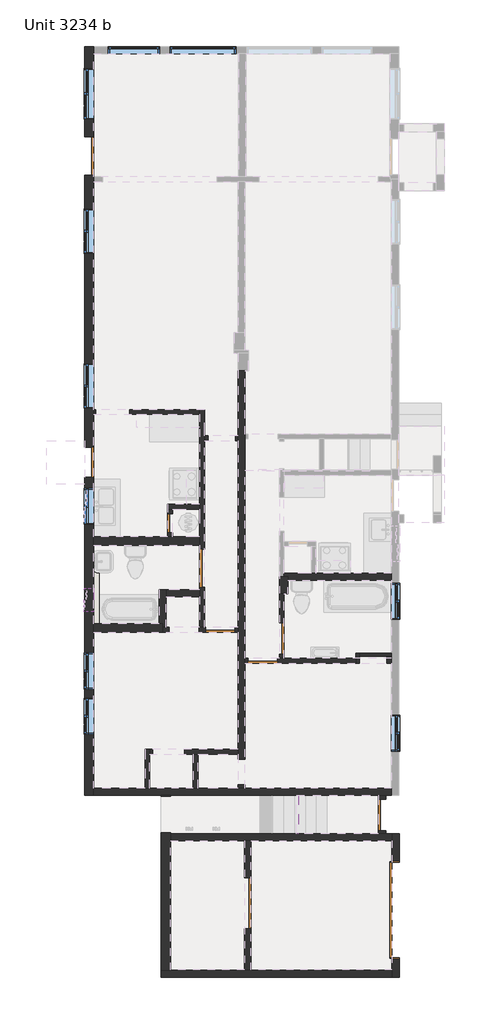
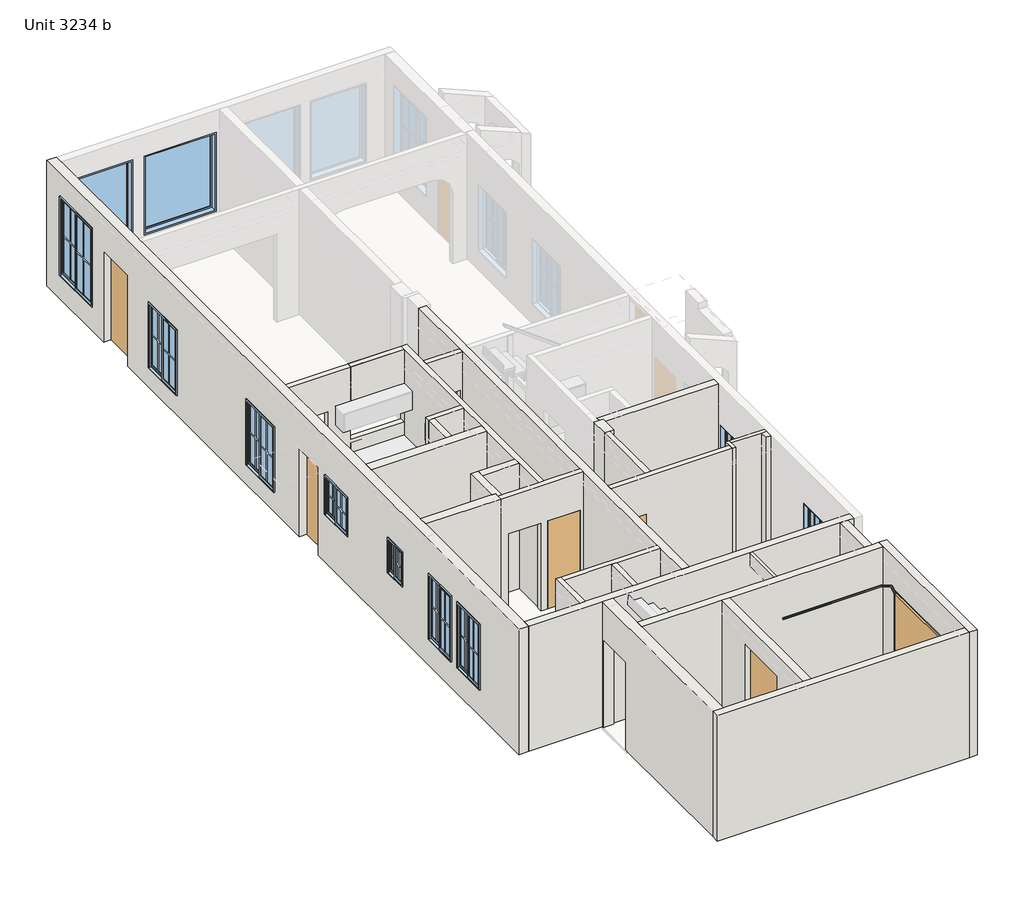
# One storey, part 1 of 3: 32 walls, 11 windows, 10 doors.
"""IFC4 building model written with IfcOpenShell, lengths in millimetres."""

from ifc_helpers import new_model, si_unit, frame, origin, origin_with_axes, place, context, project, spatial, polyline, outline, extrude, faceted_brep, transform, mapped, element, save
from components import door_4a436eca, door_faf8bfec, door_2ab74324, door_c14f567c, door_4489987b, door_f61abd0f, door_cb2762a8, door_848fc89d, door_a7bdbd55, door_52740d09, window_01d23109, window_a472aa97, window_c6f3775c, window_d69bee4a, window_23c269b0, window_b64ba72f, window_e2ec097b, window_1218291c, window_2f6c72c3

model = new_model("IFC4")

# Units and contexts
model_context = context("Model", 3, world=origin())
ifc_project = project(units=[si_unit("LENGTHUNIT", "METRE", prefix="MILLI")], contexts=[model_context])

# Site, building, storey
site = spatial("IfcSite", under=ifc_project)
building = spatial("IfcBuilding", under=site)
storey = spatial("IfcBuildingStorey", under=building, Name="Unit 3234 b", Elevation=0.0)

# Doors
placement = place(None, origin())
door_shape = door_4a436eca(model_context)
element("IfcDoor", 1, ObjectType="Planitar - Single Door_Flush Panel : 1'-6\" x 6'-8\"", at=placement, inside=storey, context=model_context, shape_type="MappedRepresentation", body=[
    mapped(door_shape, transform((-1478.9802402, 1142.3538353, 0.0), x_axis=(0.0, -1.0, 0.0), y_axis=(1.0, 0.0, 0.0), z_axis=(0.0, 0.0, 1.0))),
])
door_2_shape = door_faf8bfec(model_context)
element("IfcDoor", 2, ObjectType="Planitar - Single Door_Flush Panel : 2'-4\" x 6'-8\"", at=placement, inside=storey, context=model_context, shape_type="MappedRepresentation", body=[
    mapped(door_2_shape, transform((737.1697598, -2146.9461647, 0.0), x_axis=(-1.0, 0.0, 0.0), y_axis=(0.0, -1.0, 0.0), z_axis=(0.0, 0.0, 1.0))),
])
door_3_shape = door_2ab74324(model_context)
element("IfcDoor", 3, ObjectType="Planitar - Single Door_Flush Panel : 2'-4\" x 6'-8\"", at=placement, inside=storey, context=model_context, shape_type="MappedRepresentation", body=[
    mapped(door_3_shape, transform((-278.8302402, -1403.9961647, 0.0), x_axis=(1.0, 0.0, 0.0), y_axis=(0.0, 1.0, 0.0), z_axis=(0.0, 0.0, 1.0))),
])
door_4_shape = door_c14f567c(model_context)
element("IfcDoor", 4, ObjectType="Planitar - Single Door_Flush Panel : 2'-4\" x 6'-8\"", at=placement, inside=storey, context=model_context, shape_type="MappedRepresentation", body=[
    mapped(door_4_shape, transform((-3409.3802402, 2596.5038353, 0.0), x_axis=(0.0, -1.0, 0.0), y_axis=(1.0, 0.0, 0.0), z_axis=(0.0, 0.0, 1.0))),
])
door_5_shape = door_4489987b(model_context)
element("IfcDoor", 5, ObjectType="Planitar - Single Door_Flush Panel : 2'-6\" x 6'-8\"", at=placement, inside=storey, context=model_context, shape_type="MappedRepresentation", body=[
    mapped(door_5_shape, transform((3594.6697598, -5829.9461647, 0.0), x_axis=(0.0, 1.0, 0.0), y_axis=(-1.0, 0.0, 0.0), z_axis=(0.0, 0.0, 1.0))),
])
door_6_shape = door_f61abd0f(model_context)
element("IfcDoor", 6, ObjectType="Planitar - Single Door_Flush Panel : 2'-6\" x 6'-8\"", at=placement, inside=storey, context=model_context, shape_type="MappedRepresentation", body=[
    mapped(door_6_shape, transform((1194.3697598, -1613.5461647, 0.0), x_axis=(0.0, 1.0, 0.0), y_axis=(-1.0, 0.0, 0.0), z_axis=(0.0, 0.0, 1.0))),
])
door_7_shape = door_cb2762a8(model_context)
element("IfcDoor", 7, ObjectType="Planitar - Single Door_Flush Panel : 3'-0\" x 6'-11\"", at=placement, inside=storey, context=model_context, shape_type="MappedRepresentation", body=[
    mapped(door_7_shape, transform((-3409.3802402, 9909.9819353, 0.0), x_axis=(0.0, 1.0, 0.0), y_axis=(-1.0, 0.0, 0.0), z_axis=(0.0, 0.0, 1.0))),
])
door_8_shape = door_848fc89d(model_context)
element("IfcDoor", 8, ObjectType="Planitar - Single Door_Flush Panel : 3'-0\" x 6'-11\"", at=placement, inside=storey, context=model_context, shape_type="MappedRepresentation", body=[
    mapped(door_8_shape, transform((-710.6302402, 62.8538353, 0.0), x_axis=(0.0, -1.0, 0.0), y_axis=(1.0, 0.0, 0.0), z_axis=(0.0, 0.0, 1.0))),
])
door_9_shape = door_a7bdbd55(model_context)
element("IfcDoor", 9, ObjectType="Planitar - Single Door_Flush Panel : 4' x 7' 11\"", at=placement, inside=storey, context=model_context, shape_type="MappedRepresentation", body=[
    mapped(door_9_shape, transform((381.5697598, -7938.1461647, 0.0), x_axis=(0.0, -1.0, 0.0), y_axis=(1.0, 0.0, 0.0), z_axis=(0.0, 0.0, 1.0))),
])
door_10_shape = door_52740d09(model_context)
element("IfcDoor", 10, ObjectType="Planitar - Garage Door : 7' - 6\" x 6' 8\"", at=placement, inside=storey, context=model_context, shape_type="MappedRepresentation", body=[
    mapped(door_10_shape, transform((3915.3447598, -8096.8961647, 0.0), x_axis=(0.0, -1.0, 0.0), y_axis=(1.0, 0.0, 0.0), z_axis=(0.0, 0.0, 1.0))),
])

# Walls
element("IfcWall", 11, ObjectType="Planitar - Generic 8 1/2\"", at=placement, inside=storey, context=model_context, shape_type="Brep", body=[
    faceted_brep([(-3517.3302402, 2240.9038353, 2032.0), (-3517.3302402, 2240.9038353, 0.0), (-3517.3302402, -5353.6961647, 0.0), (-3517.3302402, -5353.6961647, 2895.6), (-3517.3302402, 12527.9038353, 2895.6), (-3517.3302402, 12527.9038353, 0.0), (-3517.3302402, 10367.1819353, 0.0), (-3517.3302402, 10367.1819353, 2108.2), (-3517.3302402, 9452.7819353, 2108.2), (-3517.3302402, 9452.7819353, 0.0), (-3517.3302402, 2952.1038353, 0.0), (-3517.3302402, 2952.1038353, 2032.0), (-3517.3302402, 12007.2038353, 2387.6), (-3517.3302402, 10788.0038353, 2387.6), (-3517.3302402, 10788.0038353, 558.8), (-3517.3302402, 12007.2038353, 558.8), (-3517.3302402, 8648.0538353, 1981.2), (-3517.3302402, 7581.2538353, 1981.2), (-3517.3302402, 7581.2538353, 457.2), (-3517.3302402, 8648.0538353, 457.2), (-3517.3302402, 4952.3538353, 1981.2), (-3517.3302402, 3885.5538353, 1981.2), (-3517.3302402, 3885.5538353, 457.2), (-3517.3302402, 4952.3538353, 457.2), (-3517.3302402, 1974.2038353, 2032.0), (-3517.3302402, 1110.6038353, 2032.0), (-3517.3302402, 1110.6038353, 1117.6), (-3517.3302402, 1974.2038353, 1117.6), (-3517.3302402, -413.3961647, 2032.0), (-3517.3302402, -972.1961647, 2032.0), (-3517.3302402, -972.1961647, 1219.2), (-3517.3302402, -413.3961647, 1219.2), (-3517.3302402, -1956.4461647, 2133.6), (-3517.3302402, -2820.0461647, 2133.6), (-3517.3302402, -2820.0461647, 609.6), (-3517.3302402, -1956.4461647, 609.6), (-3517.3302402, -3035.9461647, 2133.6), (-3517.3302402, -3899.5461647, 2133.6), (-3517.3302402, -3899.5461647, 609.6), (-3517.3302402, -3035.9461647, 609.6), (-3301.4302402, -5353.6961647, 0.0), (-3301.4302402, -5188.5961647, 0.0), (-3301.4302402, -1461.1461647, 0.0), (-3301.4302402, -1257.9461647, 0.0), (-3301.4302402, 608.9538353, 0.0), (-3301.4302402, 812.1538353, 0.0), (-3301.4302402, 2240.9038353, 0.0), (-3301.4302402, 2240.9038353, 2032.0), (-3301.4302402, 2952.1038353, 2032.0), (-3301.4302402, 2952.1038353, 0.0), (-3301.4302402, 3739.5038353, 0.0), (-3301.4302402, 3853.8038353, 0.0), (-3301.4302402, 9302.1038353, 0.0), (-3301.4302402, 9416.4038353, 0.0), (-3301.4302402, 9452.7819353, 0.0), (-3301.4302402, 9452.7819353, 2108.2), (-3301.4302402, 10367.1819353, 2108.2), (-3301.4302402, 10367.1819353, 0.0), (-3301.4302402, 12350.1038353, 0.0), (-3301.4302402, 12527.9038353, 0.0), (-3301.4302402, 12527.9038353, 2895.6), (-3301.4302402, 12350.1038353, 2895.6), (-3301.4302402, 9416.4038353, 2895.6), (-3301.4302402, 9302.1038353, 2895.6), (-3301.4302402, 3853.8038353, 2895.6), (-3301.4302402, 3739.5038353, 2895.6), (-3301.4302402, 812.1538353, 2895.6), (-3301.4302402, 608.9538353, 2895.6), (-3301.4302402, -1257.9461647, 2895.6), (-3301.4302402, -1461.1461647, 2895.6), (-3301.4302402, -5188.5961647, 2895.6), (-3301.4302402, -5353.6961647, 2895.6), (-3301.4302402, 12007.2038353, 2387.6), (-3301.4302402, 12007.2038353, 558.8), (-3301.4302402, 10788.0038353, 558.8), (-3301.4302402, 10788.0038353, 2387.6), (-3301.4302402, 8648.0538353, 1981.2), (-3301.4302402, 8648.0538353, 457.2), (-3301.4302402, 7581.2538353, 457.2), (-3301.4302402, 7581.2538353, 1981.2), (-3301.4302402, 4952.3538353, 1981.2), (-3301.4302402, 4952.3538353, 457.2), (-3301.4302402, 3885.5538353, 457.2), (-3301.4302402, 3885.5538353, 1981.2), (-3301.4302402, 1974.2038353, 2032.0), (-3301.4302402, 1974.2038353, 1117.6), (-3301.4302402, 1110.6038353, 1117.6), (-3301.4302402, 1110.6038353, 2032.0), (-3301.4302402, -413.3961647, 2032.0), (-3301.4302402, -413.3961647, 1219.2), (-3301.4302402, -972.1961647, 1219.2), (-3301.4302402, -972.1961647, 2032.0), (-3301.4302402, -1956.4461647, 2133.6), (-3301.4302402, -1956.4461647, 609.6), (-3301.4302402, -2820.0461647, 609.6), (-3301.4302402, -2820.0461647, 2133.6), (-3301.4302402, -3035.9461647, 2133.6), (-3301.4302402, -3035.9461647, 609.6), (-3301.4302402, -3899.5461647, 609.6), (-3301.4302402, -3899.5461647, 2133.6)], [[[0, 1, 2, 3, 4, 5, 6, 7, 8, 9, 10, 11], [12, 13, 14, 15], [16, 17, 18, 19], [20, 21, 22, 23], [24, 25, 26, 27], [28, 29, 30, 31], [32, 33, 34, 35], [36, 37, 38, 39]], [[40, 41, 42, 43, 44, 45, 46, 47, 48, 49, 50, 51, 52, 53, 54, 55, 56, 57, 58, 59, 60, 61, 62, 63, 64, 65, 66, 67, 68, 69, 70, 71], [72, 73, 74, 75], [76, 77, 78, 79], [80, 81, 82, 83], [84, 85, 86, 87], [88, 89, 90, 91], [92, 93, 94, 95], [96, 97, 98, 99]], [[59, 58, 57, 6, 5]], [[10, 9, 54, 53, 52, 51, 50, 49]], [[2, 1, 46, 45, 44, 43, 42, 41, 40]], [[4, 3, 71, 70, 69, 68, 67, 66, 65, 64, 63, 62, 61, 60]], [[3, 2, 40, 71]], [[5, 4, 60, 59]], [[7, 6, 57, 56]], [[8, 7, 56, 55]], [[9, 8, 55, 54]], [[47, 46, 1, 0]], [[48, 47, 0, 11]], [[49, 48, 11, 10]], [[73, 72, 12, 15]], [[74, 73, 15, 14]], [[75, 74, 14, 13]], [[72, 75, 13, 12]], [[77, 76, 16, 19]], [[78, 77, 19, 18]], [[79, 78, 18, 17]], [[76, 79, 17, 16]], [[81, 80, 20, 23]], [[82, 81, 23, 22]], [[83, 82, 22, 21]], [[80, 83, 21, 20]], [[85, 84, 24, 27]], [[86, 85, 27, 26]], [[87, 86, 26, 25]], [[84, 87, 25, 24]], [[89, 88, 28, 31]], [[90, 89, 31, 30]], [[91, 90, 30, 29]], [[88, 91, 29, 28]], [[93, 92, 32, 35]], [[94, 93, 35, 34]], [[95, 94, 34, 33]], [[92, 95, 33, 32]], [[97, 96, 36, 39]], [[98, 97, 39, 38]], [[99, 98, 38, 37]], [[96, 99, 37, 36]]]),
])
element("IfcWall", 12, ObjectType="Planitar - Generic 7\"", at=placement, inside=storey, context=model_context, shape_type="Brep", body=[
    faceted_brep([(3823.2697598, -9709.7961647, 2895.6), (3823.2697598, -9531.9961647, 2895.6), (3823.2697598, -6445.8961647, 2895.6), (3823.2697598, -6280.7961647, 2895.6), (3823.2697598, -6280.7961647, 0.0), (3823.2697598, -6445.8961647, 0.0), (3823.2697598, -6953.8961647, 0.0), (3823.2697598, -6953.8961647, 2133.6), (3823.2697598, -9239.8961647, 2133.6), (3823.2697598, -9239.8961647, 0.0), (3823.2697598, -9531.9961647, 0.0), (3823.2697598, -9709.7961647, 0.0), (4001.0697598, -6280.7961647, 2895.6), (4001.0697598, -9709.7961647, 2895.6), (4001.0697598, -9709.7961647, 0.0), (4001.0697598, -9239.8961647, 0.0), (4001.0697598, -9239.8961647, 2133.6), (4001.0697598, -6953.8961647, 2133.6), (4001.0697598, -6953.8961647, 0.0), (4001.0697598, -6280.7961647, 0.0)], [[[0, 1, 2, 3, 4, 5, 6, 7, 8, 9, 10, 11]], [[12, 13, 14, 15, 16, 17, 18, 19]], [[14, 11, 10, 9, 15]], [[4, 19, 18, 6, 5]], [[3, 2, 1, 0, 13, 12]], [[0, 11, 14, 13]], [[4, 3, 12, 19]], [[8, 16, 15, 9]], [[16, 8, 7, 17]], [[17, 7, 6, 18]]]),
])
element("IfcWall", 13, ObjectType="Planitar - Generic 7\"", at=placement, inside=storey, context=model_context, shape_type="Brep", body=[
    faceted_brep([(3823.2697598, -9531.9961647, 0.0), (464.1197598, -9531.9961647, 0.0), (299.0197598, -9531.9961647, 0.0), (-1459.9302402, -9531.9961647, 0.0), (-1688.5302402, -9531.9961647, 0.0), (-1688.5302402, -9531.9961647, 2895.6), (-1459.9302402, -9531.9961647, 2895.6), (299.0197598, -9531.9961647, 2895.6), (464.1197598, -9531.9961647, 2895.6), (3823.2697598, -9531.9961647, 2895.6), (3823.2697598, -9709.7961647, 0.0), (3823.2697598, -9709.7961647, 2895.6), (-1688.5302402, -9709.7961647, 2895.6), (-1688.5302402, -9709.7961647, 0.0)], [[[0, 1, 2, 3, 4, 5, 6, 7, 8, 9]], [[10, 11, 12, 13]], [[4, 3, 2, 1, 0, 10, 13]], [[9, 8, 7, 6, 5, 12, 11]], [[0, 9, 11, 10]], [[5, 4, 13, 12]]]),
])
element("IfcWall", 14, ObjectType="Planitar - Generic 9\"", at=placement, inside=storey, context=model_context, shape_type="Brep", body=[
    faceted_brep([(-1459.9302402, -9531.9961647, 0.0), (-1459.9302402, -6445.8961647, 0.0), (-1459.9302402, -6280.7961647, 0.0), (-1459.9302402, -6249.0461647, 0.0), (-1459.9302402, -6249.0461647, 2032.0), (-1459.9302402, -5385.4461647, 2032.0), (-1459.9302402, -5385.4461647, 0.0), (-1459.9302402, -5353.6961647, 0.0), (-1459.9302402, -5353.6961647, 2895.6), (-1459.9302402, -6280.7961647, 2895.6), (-1459.9302402, -6445.8961647, 2895.6), (-1459.9302402, -9531.9961647, 2895.6), (-1688.5302402, -6249.0461647, 2032.0), (-1688.5302402, -6249.0461647, 0.0), (-1688.5302402, -9531.9961647, 0.0), (-1688.5302402, -9531.9961647, 2895.6), (-1688.5302402, -5353.6961647, 2895.6), (-1688.5302402, -5353.6961647, 0.0), (-1688.5302402, -5385.4461647, 0.0), (-1688.5302402, -5385.4461647, 2032.0)], [[[0, 1, 2, 3, 4, 5, 6, 7, 8, 9, 10, 11]], [[12, 13, 14, 15, 16, 17, 18, 19]], [[18, 17, 7, 6]], [[14, 13, 3, 2, 1, 0]], [[11, 10, 9, 8, 16, 15]], [[0, 11, 15, 14]], [[8, 7, 17, 16]], [[6, 5, 19, 18]], [[4, 3, 13, 12]], [[5, 4, 12, 19]]]),
])
element("IfcWall", 15, ObjectType="Planitar - Generic 6 1/2\"", at=placement, inside=storey, context=model_context, shape_type="SweptSolid", body=[
    extrude(outline(polyline([(-8547.7461647, 2413.0), (-8547.7461647, 0.0), (-9531.9961647, 0.0), (-9531.9961647, 2895.6), (-6445.8961647, 2895.6), (-6445.8961647, 0.0), (-7328.5461647, 0.0), (-7328.5461647, 2413.0), (-8547.7461647, 2413.0)])), frame((299.0197598, 0.0, 0.0), z_axis=(1.0, 0.0, 0.0), x_axis=(0.0, 1.0, 0.0)), (0.0, 0.0, 1.0), 165.1),
])
element("IfcWall", 16, ObjectType="Planitar - Generic 6 1/2\"", at=placement, inside=storey, context=model_context, shape_type="Brep", body=[
    faceted_brep([(3823.2697598, -6280.7961647, 0.0), (3683.5697598, -6280.7961647, 0.0), (3505.7697598, -6280.7961647, 0.0), (-1459.9302402, -6280.7961647, 0.0), (-1459.9302402, -6280.7961647, 2895.6), (1541.1333598, -6280.7961647, 2895.6), (1591.9333598, -6280.7961647, 2895.6), (3505.7697598, -6280.7961647, 2895.6), (3683.5697598, -6280.7961647, 2895.6), (3823.2697598, -6280.7961647, 2895.6), (3823.2697598, -6445.8961647, 0.0), (3823.2697598, -6445.8961647, 2895.6), (464.1197598, -6445.8961647, 2895.6), (299.0197598, -6445.8961647, 2895.6), (-1459.9302402, -6445.8961647, 2895.6), (-1459.9302402, -6445.8961647, 0.0), (299.0197598, -6445.8961647, 0.0), (464.1197598, -6445.8961647, 0.0)], [[[0, 1, 2, 3, 4, 5, 6, 7, 8, 9]], [[10, 11, 12, 13, 14, 15, 16, 17]], [[3, 2, 1, 0, 10, 17, 16, 15]], [[9, 8, 7, 6, 5, 4, 14, 13, 12, 11]], [[0, 9, 11, 10]], [[4, 3, 15, 14]]]),
])
element("IfcWall", 17, ObjectType="Planitar - Generic 6 1/2\"", at=placement, inside=storey, context=model_context, shape_type="Brep", body=[
    faceted_brep([(3816.9197598, -5188.5961647, 0.0), (311.7197598, -5188.5961647, 0.0), (146.6197598, -5188.5961647, 0.0), (-812.2302402, -5188.5961647, 0.0), (-926.5302402, -5188.5961647, 0.0), (-1961.5802402, -5188.5961647, 0.0), (-2075.8802402, -5188.5961647, 0.0), (-3301.4302402, -5188.5961647, 0.0), (-3301.4302402, -5188.5961647, 2895.6), (-2075.8802402, -5188.5961647, 2895.6), (-1961.5802402, -5188.5961647, 2895.6), (-926.5302402, -5188.5961647, 2895.6), (-812.2302402, -5188.5961647, 2895.6), (146.6197598, -5188.5961647, 2895.6), (311.7197598, -5188.5961647, 2895.6), (3816.9197598, -5188.5961647, 2895.6), (3816.9197598, -5353.6961647, 0.0), (3816.9197598, -5353.6961647, 2895.6), (3683.5697598, -5353.6961647, 2895.6), (3505.7697598, -5353.6961647, 2895.6), (1591.9333598, -5353.6961647, 2895.6), (1541.1333598, -5353.6961647, 2895.6), (-1459.9302402, -5353.6961647, 2895.6), (-1688.5302402, -5353.6961647, 2895.6), (-3301.4302402, -5353.6961647, 2895.6), (-3301.4302402, -5353.6961647, 0.0), (-1688.5302402, -5353.6961647, 0.0), (-1459.9302402, -5353.6961647, 0.0), (3505.7697598, -5353.6961647, 0.0), (3683.5697598, -5353.6961647, 0.0)], [[[0, 1, 2, 3, 4, 5, 6, 7, 8, 9, 10, 11, 12, 13, 14, 15]], [[16, 17, 18, 19, 20, 21, 22, 23, 24, 25, 26, 27, 28, 29]], [[7, 6, 5, 4, 3, 2, 1, 0, 16, 29, 28, 27, 26, 25]], [[15, 14, 13, 12, 11, 10, 9, 8, 24, 23, 22, 21, 20, 19, 18, 17]], [[8, 7, 25, 24]], [[0, 15, 17, 16]]]),
])
element("IfcWall", 18, ObjectType="Planitar - Generic 6 1/2\"", at=placement, inside=storey, context=model_context, shape_type="Brep", body=[
    faceted_brep([(311.7197598, -5188.5961647, 0.0), (311.7197598, -5106.0461647, 0.0), (311.7197598, -5106.0461647, 2032.0), (311.7197598, -4496.4461647, 2032.0), (311.7197598, -4496.4461647, 0.0), (311.7197598, -2204.0961647, 0.0), (311.7197598, -2089.7961647, 0.0), (311.7197598, 3155.3038353, 0.0), (311.7197598, 3269.6038353, 0.0), (311.7197598, 4780.9038353, 0.0), (311.7197598, 4780.9038353, 2895.6), (311.7197598, 3269.6038353, 2895.6), (311.7197598, 3155.3038353, 2895.6), (311.7197598, -2089.7961647, 2895.6), (311.7197598, -2204.0961647, 2895.6), (311.7197598, -5188.5961647, 2895.6), (146.6197598, -5106.0461647, 2032.0), (146.6197598, -5106.0461647, 0.0), (146.6197598, -5188.5961647, 0.0), (146.6197598, -5188.5961647, 2895.6), (146.6197598, -4375.7961647, 2895.6), (146.6197598, -4261.4961647, 2895.6), (146.6197598, -1461.1461647, 2895.6), (146.6197598, -1346.8461647, 2895.6), (146.6197598, 3110.8538353, 2895.6), (146.6197598, 3225.1538353, 2895.6), (146.6197598, 4780.9038353, 2895.6), (146.6197598, 4780.9038353, 0.0), (146.6197598, 3225.1538353, 0.0), (146.6197598, 3110.8538353, 0.0), (146.6197598, -1346.8461647, 0.0), (146.6197598, -1461.1461647, 0.0), (146.6197598, -4261.4961647, 0.0), (146.6197598, -4375.7961647, 0.0), (146.6197598, -4496.4461647, 0.0), (146.6197598, -4496.4461647, 2032.0)], [[[0, 1, 2, 3, 4, 5, 6, 7, 8, 9, 10, 11, 12, 13, 14, 15]], [[16, 17, 18, 19, 20, 21, 22, 23, 24, 25, 26, 27, 28, 29, 30, 31, 32, 33, 34, 35]], [[18, 17, 1, 0]], [[34, 33, 32, 31, 30, 29, 28, 27, 9, 8, 7, 6, 5, 4]], [[10, 9, 27, 26]], [[15, 14, 13, 12, 11, 10, 26, 25, 24, 23, 22, 21, 20, 19]], [[0, 15, 19, 18]], [[4, 3, 35, 34]], [[2, 1, 17, 16]], [[3, 2, 16, 35]]]),
])
element("IfcWall", 19, ObjectType="Planitar - Generic 4 1/2\"", at=placement, inside=storey, context=model_context, shape_type="Brep", body=[
    faceted_brep([(-1961.5802402, -5188.5961647, 0.0), (-1961.5802402, -4375.7961647, 0.0), (-1961.5802402, -4261.4961647, 0.0), (-1961.5802402, -4261.4961647, 2895.6), (-1961.5802402, -4375.7961647, 2895.6), (-1961.5802402, -5188.5961647, 2895.6), (-2075.8802402, -5188.5961647, 0.0), (-2075.8802402, -5188.5961647, 2895.6), (-2075.8802402, -4261.4961647, 2895.6), (-2075.8802402, -4261.4961647, 0.0)], [[[0, 1, 2, 3, 4, 5]], [[6, 7, 8, 9]], [[2, 1, 0, 6, 9]], [[5, 4, 3, 8, 7]], [[0, 5, 7, 6]], [[3, 2, 9, 8]]]),
])
element("IfcWall", 20, ObjectType="Planitar - Generic 4 1/2\"", at=placement, inside=storey, context=model_context, shape_type="Brep", body=[
    faceted_brep([(-1961.5802402, -4375.7961647, 0.0), (-1891.7302402, -4375.7961647, 0.0), (-1891.7302402, -4375.7961647, 2032.0), (-1129.7302402, -4375.7961647, 2032.0), (-1129.7302402, -4375.7961647, 0.0), (-926.5302402, -4375.7961647, 0.0), (-812.2302402, -4375.7961647, 0.0), (146.6197598, -4375.7961647, 0.0), (146.6197598, -4375.7961647, 2895.6), (-812.2302402, -4375.7961647, 2895.6), (-926.5302402, -4375.7961647, 2895.6), (-1961.5802402, -4375.7961647, 2895.6), (-1891.7302402, -4261.4961647, 2032.0), (-1891.7302402, -4261.4961647, 0.0), (-1961.5802402, -4261.4961647, 0.0), (-1961.5802402, -4261.4961647, 2895.6), (146.6197598, -4261.4961647, 2895.6), (146.6197598, -4261.4961647, 0.0), (-1129.7302402, -4261.4961647, 0.0), (-1129.7302402, -4261.4961647, 2032.0)], [[[0, 1, 2, 3, 4, 5, 6, 7, 8, 9, 10, 11]], [[12, 13, 14, 15, 16, 17, 18, 19]], [[18, 17, 7, 6, 5, 4]], [[14, 13, 1, 0]], [[11, 10, 9, 8, 16, 15]], [[0, 11, 15, 14]], [[8, 7, 17, 16]], [[4, 3, 19, 18]], [[2, 1, 13, 12]], [[3, 2, 12, 19]]]),
])
element("IfcWall", 21, ObjectType="Planitar - Generic 4 1/2\"", at=placement, inside=storey, context=model_context, shape_type="SweptSolid", body=[
    extrude(outline(polyline([(-812.2302402, -4375.7961647), (-812.2302402, -5188.5961647), (-926.5302402, -5188.5961647), (-926.5302402, -4375.7961647), (-812.2302402, -4375.7961647)])), origin_with_axes(), (0.0, 0.0, 1.0), 2895.6),
])
element("IfcWall", 22, ObjectType="Planitar - Generic 4 1/2\"", at=placement, inside=storey, context=model_context, shape_type="Brep", body=[
    faceted_brep([(311.7197598, -2204.0961647, 0.0), (381.5697598, -2204.0961647, 0.0), (381.5697598, -2204.0961647, 2032.0), (1092.7697598, -2204.0961647, 2032.0), (1092.7697598, -2204.0961647, 0.0), (2972.3697598, -2204.0961647, 0.0), (2972.3697598, -2204.0961647, 2895.6), (311.7197598, -2204.0961647, 2895.6), (381.5697598, -2089.7961647, 2032.0), (381.5697598, -2089.7961647, 0.0), (311.7197598, -2089.7961647, 0.0), (311.7197598, -2089.7961647, 2895.6), (1137.2197598, -2089.7961647, 2895.6), (1251.5197598, -2089.7961647, 2895.6), (2972.3697598, -2089.7961647, 2895.6), (2972.3697598, -2089.7961647, 0.0), (1251.5197598, -2089.7961647, 0.0), (1137.2197598, -2089.7961647, 0.0), (1092.7697598, -2089.7961647, 0.0), (1092.7697598, -2089.7961647, 2032.0)], [[[0, 1, 2, 3, 4, 5, 6, 7]], [[8, 9, 10, 11, 12, 13, 14, 15, 16, 17, 18, 19]], [[10, 9, 1, 0]], [[18, 17, 16, 15, 5, 4]], [[7, 6, 14, 13, 12, 11]], [[0, 7, 11, 10]], [[2, 1, 9, 8]], [[3, 2, 8, 19]], [[4, 3, 19, 18]], [[6, 5, 15, 14]]]),
])
element("IfcWall", 23, ObjectType="Planitar - Generic 4 1/2\"", at=placement, inside=storey, context=model_context, shape_type="SweptSolid", body=[
    extrude(outline(polyline([(-546.7461647, 0.0), (-1232.5461647, 0.0), (-1232.5461647, 2032.0), (-1994.5461647, 2032.0), (-1994.5461647, 0.0), (-2089.7961647, 0.0), (-2089.7961647, 2895.6), (-546.7461647, 2895.6), (-546.7461647, 0.0)])), frame((1137.2197598, 0.0, 0.0), z_axis=(1.0, 0.0, 0.0), x_axis=(0.0, 1.0, 0.0)), (0.0, 0.0, 1.0), 114.3),
])
element("IfcWall", 24, ObjectType="Planitar - Generic 6 1/2\"", at=placement, inside=storey, context=model_context, shape_type="Brep", body=[
    faceted_brep([(3816.9197598, -57.7961647, 0.0), (2013.5197598, -57.7961647, 0.0), (1899.2197598, -57.7961647, 0.0), (1251.5197598, -57.7961647, 0.0), (1251.5197598, -57.7961647, 2895.6), (1899.2197598, -57.7961647, 2895.6), (2013.5197598, -57.7961647, 2895.6), (3816.9197598, -57.7961647, 2895.6), (3816.9197598, -222.8961647, 0.0), (3816.9197598, -222.8961647, 2895.6), (1340.4197598, -222.8961647, 2895.6), (1340.4197598, -222.8961647, 0.0), (1340.4197598, -140.3461647, 0.0), (1251.5197598, -140.3461647, 0.0), (1251.5197598, -140.3461647, 2895.6), (1340.4197598, -140.3461647, 2895.6)], [[[0, 1, 2, 3, 4, 5, 6, 7]], [[8, 9, 10, 11]], [[3, 2, 1, 0, 8, 11, 12, 13]], [[7, 6, 5, 4, 14, 15, 10, 9]], [[0, 7, 9, 8]], [[4, 3, 13, 14]], [[13, 12, 15, 14]], [[12, 11, 10, 15]]]),
])
element("IfcWall", 25, ObjectType="Planitar - Generic 8\"", at=placement, inside=storey, context=model_context, shape_type="Brep", body=[
    faceted_brep([(1340.4197598, -546.7461647, 0.0), (1340.4197598, -222.8961647, 0.0), (1340.4197598, -140.3461647, 0.0), (1340.4197598, -140.3461647, 2895.6), (1340.4197598, -222.8961647, 2895.6), (1340.4197598, -546.7461647, 2895.6), (1137.2197598, -546.7461647, 0.0), (1137.2197598, -546.7461647, 2895.6), (1137.2197598, -140.3461647, 2895.6), (1137.2197598, -140.3461647, 0.0), (1251.5197598, -546.7461647, 0.0), (1251.5197598, -140.3461647, 0.0), (1251.5197598, -140.3461647, 2895.6), (1251.5197598, -546.7461647, 2895.6)], [[[0, 1, 2, 3, 4, 5]], [[6, 7, 8, 9]], [[2, 1, 0, 10, 6, 9, 11]], [[3, 2, 11, 9, 8, 12]], [[5, 4, 3, 12, 8, 7, 13]], [[0, 5, 13, 7, 6, 10]]]),
])
element("IfcWall", 26, ObjectType="Planitar - Generic 4 1/2\"", at=placement, inside=storey, context=model_context, shape_type="Brep", body=[
    faceted_brep([(-634.4302402, -1346.8461647, 0.0), (-653.4802402, -1346.8461647, 0.0), (-767.7802402, -1346.8461647, 0.0), (-786.8302402, -1346.8461647, 0.0), (-786.8302402, -1346.8461647, 2032.0), (-1498.0302402, -1346.8461647, 2032.0), (-1498.0302402, -1346.8461647, 0.0), (-1574.2302402, -1346.8461647, 0.0), (-1656.7802402, -1346.8461647, 0.0), (-1656.7802402, -1346.8461647, 2895.6), (-1574.2302402, -1346.8461647, 2895.6), (-767.7802402, -1346.8461647, 2895.6), (-653.4802402, -1346.8461647, 2895.6), (146.6197598, -1346.8461647, 2895.6), (146.6197598, -1346.8461647, 0.0), (76.7697598, -1346.8461647, 0.0), (76.7697598, -1346.8461647, 2032.0), (-634.4302402, -1346.8461647, 2032.0), (-786.8302402, -1461.1461647, 2032.0), (-786.8302402, -1461.1461647, 0.0), (-634.4302402, -1461.1461647, 0.0), (-634.4302402, -1461.1461647, 2032.0), (76.7697598, -1461.1461647, 2032.0), (76.7697598, -1461.1461647, 0.0), (146.6197598, -1461.1461647, 0.0), (146.6197598, -1461.1461647, 2895.6), (-1656.7802402, -1461.1461647, 2895.6), (-1656.7802402, -1461.1461647, 0.0), (-1498.0302402, -1461.1461647, 0.0), (-1498.0302402, -1461.1461647, 2032.0)], [[[0, 1, 2, 3, 4, 5, 6, 7, 8, 9, 10, 11, 12, 13, 14, 15, 16, 17]], [[18, 19, 20, 21, 22, 23, 24, 25, 26, 27, 28, 29]], [[24, 23, 15, 14]], [[28, 27, 8, 7, 6]], [[20, 19, 3, 2, 1, 0]], [[9, 8, 27, 26]], [[13, 12, 11, 10, 9, 26, 25]], [[14, 13, 25, 24]], [[16, 15, 23, 22]], [[17, 16, 22, 21]], [[0, 17, 21, 20]], [[6, 5, 29, 28]], [[4, 3, 19, 18]], [[5, 4, 18, 29]]]),
])
element("IfcWall", 27, ObjectType="Planitar - Generic 8\"", at=placement, inside=storey, context=model_context, shape_type="Brep", body=[
    faceted_brep([(-1656.7802402, -1257.9461647, 0.0), (-1739.3302402, -1257.9461647, 0.0), (-3174.4302402, -1257.9461647, 0.0), (-3301.4302402, -1257.9461647, 0.0), (-3301.4302402, -1257.9461647, 609.6), (-3301.4302402, -1257.9461647, 2895.6), (-1739.3302402, -1257.9461647, 2895.6), (-1656.7802402, -1257.9461647, 2895.6), (-1656.7802402, -1461.1461647, 0.0), (-1656.7802402, -1461.1461647, 2895.6), (-3301.4302402, -1461.1461647, 2895.6), (-3301.4302402, -1461.1461647, 0.0), (-1656.7802402, -1346.8461647, 0.0), (-1656.7802402, -1346.8461647, 2895.6)], [[[0, 1, 2, 3, 4, 5, 6, 7]], [[8, 9, 10, 11]], [[3, 2, 1, 0, 12, 8, 11]], [[7, 6, 5, 10, 9, 13]], [[0, 7, 13, 9, 8, 12]], [[5, 4, 3, 11, 10]]]),
])
element("IfcWall", 28, ObjectType="Planitar - Generic 4 1/2\"", at=placement, inside=storey, context=model_context, shape_type="Brep", body=[
    faceted_brep([(-653.4802402, -1346.8461647, 0.0), (-653.4802402, -394.3461647, 0.0), (-653.4802402, -394.3461647, 2032.0), (-653.4802402, 520.0538353, 2032.0), (-653.4802402, 520.0538353, 0.0), (-653.4802402, 3110.8538353, 0.0), (-653.4802402, 3225.1538353, 0.0), (-653.4802402, 3853.8038353, 0.0), (-653.4802402, 3853.8038353, 2895.6), (-653.4802402, 3225.1538353, 2895.6), (-653.4802402, 3110.8538353, 2895.6), (-653.4802402, -1346.8461647, 2895.6), (-767.7802402, -394.3461647, 2032.0), (-767.7802402, -394.3461647, 0.0), (-767.7802402, -451.4961647, 0.0), (-767.7802402, -616.5961647, 0.0), (-767.7802402, -1346.8461647, 0.0), (-767.7802402, -1346.8461647, 2895.6), (-767.7802402, -616.5961647, 2895.6), (-767.7802402, -451.4961647, 2895.6), (-767.7802402, 608.9538353, 2895.6), (-767.7802402, 812.1538353, 2895.6), (-767.7802402, 1478.9038353, 2895.6), (-767.7802402, 1593.2038353, 2895.6), (-767.7802402, 3739.5038353, 2895.6), (-767.7802402, 3853.8038353, 2895.6), (-767.7802402, 3853.8038353, 1524.0), (-767.7802402, 3853.8038353, 1143.0), (-767.7802402, 3853.8038353, 0.0), (-767.7802402, 3739.5038353, 0.0), (-767.7802402, 1593.2038353, 0.0), (-767.7802402, 1478.9038353, 0.0), (-767.7802402, 812.1538353, 0.0), (-767.7802402, 608.9538353, 0.0), (-767.7802402, 520.0538353, 0.0), (-767.7802402, 520.0538353, 2032.0)], [[[0, 1, 2, 3, 4, 5, 6, 7, 8, 9, 10, 11]], [[12, 13, 14, 15, 16, 17, 18, 19, 20, 21, 22, 23, 24, 25, 26, 27, 28, 29, 30, 31, 32, 33, 34, 35]], [[34, 33, 32, 31, 30, 29, 28, 7, 6, 5, 4]], [[16, 15, 14, 13, 1, 0]], [[11, 10, 9, 8, 25, 24, 23, 22, 21, 20, 19, 18, 17]], [[0, 11, 17, 16]], [[2, 1, 13, 12]], [[3, 2, 12, 35]], [[4, 3, 35, 34]], [[7, 28, 27, 26, 25, 8]]]),
])
element("IfcWall", 29, ObjectType="Planitar - Generic 4 1/2\"", at=placement, inside=storey, context=model_context, shape_type="SweptSolid", body=[
    extrude(outline(polyline([(-1942.5302402, 3853.8038353), (-767.7802402, 3853.8038353), (-767.7802402, 3739.5038353), (-1942.5302402, 3739.5038353), (-1942.5302402, 3853.8038353)])), origin_with_axes(), (0.0, 0.0, 1.0), 1143.0),
    extrude(outline(polyline([(-1942.5302402, 3853.8038353), (-767.7802402, 3853.8038353), (-767.7802402, 3739.5038353), (-1942.5302402, 3739.5038353), (-1942.5302402, 3853.8038353)])), frame((0.0, 0.0, 1524.0), z_axis=(0.0, 0.0, 1.0), x_axis=(1.0, 0.0, 0.0)), (0.0, 0.0, 1.0), 1371.6),
])
element("IfcWall", 30, ObjectType="Planitar - Generic 4 1/2\"", at=placement, inside=storey, context=model_context, shape_type="Brep", body=[
    faceted_brep([(-767.7802402, 1593.2038353, 0.0), (-1536.1302402, 1593.2038353, 0.0), (-1536.1302402, 1593.2038353, 2895.6), (-767.7802402, 1593.2038353, 2895.6), (-767.7802402, 1478.9038353, 0.0), (-767.7802402, 1478.9038353, 2895.6), (-1421.8302402, 1478.9038353, 2895.6), (-1536.1302402, 1478.9038353, 2895.6), (-1536.1302402, 1478.9038353, 0.0), (-1421.8302402, 1478.9038353, 0.0)], [[[0, 1, 2, 3]], [[4, 5, 6, 7, 8, 9]], [[1, 0, 4, 9, 8]], [[3, 2, 7, 6, 5]], [[0, 3, 5, 4]], [[2, 1, 8, 7]]]),
])
element("IfcWall", 31, ObjectType="Planitar - Generic 4 1/2\"", at=placement, inside=storey, context=model_context, shape_type="SweptSolid", body=[
    extrude(outline(polyline([(913.7538353, 2032.0), (913.7538353, 0.0), (812.1538353, 0.0), (812.1538353, 2895.6), (1478.9038353, 2895.6), (1478.9038353, 0.0), (1370.9538353, 0.0), (1370.9538353, 2032.0), (913.7538353, 2032.0)])), frame((-1536.1302402, 0.0, 0.0), z_axis=(1.0, 0.0, 0.0), x_axis=(0.0, 1.0, 0.0)), (0.0, 0.0, 1.0), 114.3),
])
element("IfcWall", 32, ObjectType="Planitar - Generic 8\"", at=placement, inside=storey, context=model_context, shape_type="Brep", body=[
    faceted_brep([(-767.7802402, 812.1538353, 0.0), (-1421.8302402, 812.1538353, 0.0), (-1536.1302402, 812.1538353, 0.0), (-3301.4302402, 812.1538353, 0.0), (-3301.4302402, 812.1538353, 2895.6), (-1536.1302402, 812.1538353, 2895.6), (-1421.8302402, 812.1538353, 2895.6), (-767.7802402, 812.1538353, 2895.6), (-767.7802402, 608.9538353, 0.0), (-767.7802402, 608.9538353, 2895.6), (-3301.4302402, 608.9538353, 2895.6), (-3301.4302402, 608.9538353, 0.0)], [[[0, 1, 2, 3, 4, 5, 6, 7]], [[8, 9, 10, 11]], [[3, 2, 1, 0, 8, 11]], [[7, 6, 5, 4, 10, 9]], [[4, 3, 11, 10]], [[0, 7, 9, 8]]]),
])
element("IfcWall", 33, ObjectType="Planitar - Generic 4 1/2\"", at=placement, inside=storey, context=model_context, shape_type="SweptSolid", body=[
    extrude(outline(polyline([(0.0, -653.4802402), (0.0, -570.9302402), (2032.0, -570.9302402), (2032.0, 89.4697598), (0.0, 89.4697598), (0.0, 146.6197598), (2895.6, 146.6197598), (2895.6, -653.4802402), (0.0, -653.4802402)])), frame((0.0, 3110.8538353, 0.0), z_axis=(0.0, 1.0, 0.0), x_axis=(0.0, 0.0, 1.0)), (0.0, 0.0, 1.0), 114.3),
])
element("IfcWall", 34, ObjectType="Planitar - Generic 6 1/2\"", at=placement, inside=storey, context=model_context, shape_type="Brep", body=[
    faceted_brep([(-1574.2302402, -1346.8461647, 0.0), (-1574.2302402, -616.5961647, 0.0), (-1574.2302402, -451.4961647, 0.0), (-1574.2302402, -451.4961647, 2895.6), (-1574.2302402, -616.5961647, 2895.6), (-1574.2302402, -1346.8461647, 2895.6), (-1739.3302402, -1257.9461647, 0.0), (-1739.3302402, -1257.9461647, 2895.6), (-1739.3302402, -451.4961647, 2895.6), (-1739.3302402, -451.4961647, 0.0), (-1656.7802402, -1346.8461647, 0.0), (-1656.7802402, -1257.9461647, 0.0), (-1656.7802402, -1257.9461647, 2895.6), (-1656.7802402, -1346.8461647, 2895.6)], [[[0, 1, 2, 3, 4, 5]], [[6, 7, 8, 9]], [[2, 1, 0, 10, 11, 6, 9]], [[5, 4, 3, 8, 7, 12, 13]], [[0, 5, 13, 10]], [[13, 12, 11, 10]], [[12, 7, 6, 11]], [[3, 2, 9, 8]]]),
])
element("IfcWall", 35, ObjectType="Planitar - Generic 6 1/2\"", at=placement, inside=storey, context=model_context, shape_type="SweptSolid", body=[
    extrude(outline(polyline([(-767.7802402, -616.5961647), (-1574.2302402, -616.5961647), (-1574.2302402, -451.4961647), (-767.7802402, -451.4961647), (-767.7802402, -616.5961647)])), origin_with_axes(), (0.0, 0.0, 1.0), 2895.6),
])
element("IfcWall", 36, ObjectType="Planitar - Generic 7\"", at=placement, inside=storey, context=model_context, shape_type="SweptSolid", body=[
    extrude(outline(polyline([(-5353.6961647, 0.0), (-5448.9461647, 0.0), (-5448.9461647, 2032.0), (-6210.9461647, 2032.0), (-6210.9461647, 0.0), (-6280.7961647, 0.0), (-6280.7961647, 2895.6), (-5353.6961647, 2895.6), (-5353.6961647, 0.0)])), frame((3505.7697598, 0.0, 0.0), z_axis=(1.0, 0.0, 0.0), x_axis=(0.0, 1.0, 0.0)), (0.0, 0.0, 1.0), 177.8),
])
element("IfcWall", 37, ObjectType="Planitar - Generic 4 1/2\"", at=placement, inside=storey, context=model_context, shape_type="Brep", body=[
    faceted_brep([(-3256.9802402, 3853.8038353, 2032.0), (-3256.9802402, 3853.8038353, 0.0), (-3301.4302402, 3853.8038353, 0.0), (-3301.4302402, 3853.8038353, 2895.6), (-767.7802402, 3853.8038353, 2895.6), (-767.7802402, 3853.8038353, 0.0), (-2444.1802402, 3853.8038353, 0.0), (-2444.1802402, 3853.8038353, 2032.0), (-1942.5302402, 3853.8038353, 1879.6), (-1942.5302402, 3853.8038353, 1524.0), (-1942.5302402, 3853.8038353, 1219.2), (-774.1302402, 3853.8038353, 1219.2), (-774.1302402, 3853.8038353, 1879.6), (-3301.4302402, 3739.5038353, 0.0), (-3256.9802402, 3739.5038353, 0.0), (-3256.9802402, 3739.5038353, 2032.0), (-2444.1802402, 3739.5038353, 2032.0), (-2444.1802402, 3739.5038353, 0.0), (-767.7802402, 3739.5038353, 0.0), (-767.7802402, 3739.5038353, 2895.6), (-3301.4302402, 3739.5038353, 2895.6), (-1942.5302402, 3739.5038353, 1879.6), (-774.1302402, 3739.5038353, 1879.6), (-774.1302402, 3739.5038353, 1219.2), (-1942.5302402, 3739.5038353, 1219.2), (-1942.5302402, 3739.5038353, 1524.0)], [[[0, 1, 2, 3, 4, 5, 6, 7], [8, 9, 10, 11, 12]], [[13, 14, 15, 16, 17, 18, 19, 20], [21, 22, 23, 24, 25]], [[6, 5, 18, 17]], [[2, 1, 14, 13]], [[4, 3, 20, 19]], [[3, 2, 13, 20]], [[16, 15, 0, 7]], [[15, 14, 1, 0]], [[17, 16, 7, 6]], [[4, 19, 18, 5]], [[10, 9, 8, 21, 25, 24]], [[11, 10, 24, 23]], [[12, 11, 23, 22]], [[8, 12, 22, 21]]]),
])
element("IfcWall", 38, ObjectType="Planitar - Generic 5\"", at=placement, inside=storey, context=model_context, shape_type="SweptSolid", body=[
    extrude(outline(polyline([(-3301.4302402, -1257.9461647), (-3301.4302402, -19.6961647), (-3174.4302402, -19.6961647), (-3174.4302402, -1257.9461647), (-3301.4302402, -1257.9461647)])), origin_with_axes(), (0.0, 0.0, 1.0), 609.6),
])
element("IfcWall", 39, ObjectType="Planitar - Generic 2\"", at=placement, inside=storey, context=model_context, shape_type="SweptSolid", body=[
    extrude(outline(polyline([(1541.1333598, -6280.7961647), (1541.1333598, -5353.6961647), (1591.9333598, -5353.6961647), (1591.9333598, -6280.7961647), (1541.1333598, -6280.7961647)])), frame((0.0, 0.0, 2590.8), z_axis=(0.0, 0.0, 1.0), x_axis=(1.0, 0.0, 0.0)), (0.0, 0.0, 1.0), 304.8),
])
element("IfcWall", 40, ObjectType="Planitar - Generic 3\"", at=placement, inside=storey, context=model_context, shape_type="Brep", body=[
    faceted_brep([(3048.5697598, -2204.0961647, 0.0), (3048.5697598, -2038.9961647, 0.0), (3048.5697598, -1962.7961647, 0.0), (3048.5697598, -1962.7961647, 2895.6), (3048.5697598, -2038.9961647, 2895.6), (3048.5697598, -2204.0961647, 2895.6), (2972.3697598, -2204.0961647, 0.0), (2972.3697598, -2204.0961647, 2895.6), (2972.3697598, -2089.7961647, 2895.6), (2972.3697598, -1962.7961647, 2895.6), (2972.3697598, -1962.7961647, 0.0), (2972.3697598, -2089.7961647, 0.0)], [[[0, 1, 2, 3, 4, 5]], [[6, 7, 8, 9, 10, 11]], [[2, 1, 0, 6, 11, 10]], [[5, 4, 3, 9, 8, 7]], [[3, 2, 10, 9]], [[0, 5, 7, 6]]]),
])
element("IfcWall", 41, ObjectType="Planitar - Generic 3\"", at=placement, inside=storey, context=model_context, shape_type="Brep", body=[
    faceted_brep([(3048.5697598, -2038.9961647, 0.0), (3702.6197598, -2038.9961647, 0.0), (3816.9197598, -2038.9961647, 0.0), (3816.9197598, -2038.9961647, 2895.6), (3702.6197598, -2038.9961647, 2895.6), (3048.5697598, -2038.9961647, 2895.6), (3048.5697598, -1962.7961647, 0.0), (3048.5697598, -1962.7961647, 2895.6), (3816.9197598, -1962.7961647, 2895.6), (3816.9197598, -1962.7961647, 0.0)], [[[0, 1, 2, 3, 4, 5]], [[6, 7, 8, 9]], [[2, 1, 0, 6, 9]], [[5, 4, 3, 8, 7]], [[0, 5, 7, 6]], [[3, 2, 9, 8]]]),
])
element("IfcWall", 42, ObjectType="Planitar - Generic 4 1/2\"", at=placement, inside=storey, context=model_context, shape_type="SweptSolid", body=[
    extrude(outline(polyline([(3702.6197598, -2204.0961647), (3702.6197598, -2038.9961647), (3816.9197598, -2038.9961647), (3816.9197598, -2204.0961647), (3702.6197598, -2204.0961647)])), origin_with_axes(), (0.0, 0.0, 1.0), 2895.6),
])

# Windows
window_shape = window_01d23109(model_context)
element("IfcWindow", 43, ObjectType="Planitar-Sliding-Double : 1' 10\" x 2' 8\"", at=placement, inside=storey, context=model_context, shape_type="MappedRepresentation", body=[
    mapped(window_shape, transform((-3413.1902402, -692.7961647, 304.8), x_axis=(0.0, 1.0, 0.0), y_axis=(-1.0, 0.0, 0.0), z_axis=(0.0, 0.0, 1.0))),
])
window_2_shape = window_a472aa97(model_context)
element("IfcWindow", 44, ObjectType="Planitar-Sliding-Double : 2' 10\" x 3'", at=placement, inside=storey, context=model_context, shape_type="MappedRepresentation", body=[
    mapped(window_2_shape, transform((-3413.1902402, 1542.4038353, 203.2), x_axis=(0.0, 1.0, 0.0), y_axis=(-1.0, 0.0, 0.0), z_axis=(0.0, 0.0, 1.0))),
])
window_3_shape = window_c6f3775c(model_context)
element("IfcWindow", 45, ObjectType="Planitar-Sliding-Double : 2' 10\" x 3' 4\"", at=placement, inside=storey, context=model_context, shape_type="MappedRepresentation", body=[
    mapped(window_3_shape, transform((3909.6297598, -724.5461647, 0.0), x_axis=(0.0, 1.0, 0.0), y_axis=(-1.0, 0.0, 0.0), z_axis=(0.0, 0.0, 1.0))),
])
window_4_shape = window_d69bee4a(model_context)
element("IfcWindow", 46, ObjectType="Planitar-Sliding-Double : 2' 10\" x 4' 7\"", at=placement, inside=storey, context=model_context, shape_type="MappedRepresentation", body=[
    mapped(window_4_shape, transform((-3413.1902402, -2388.2461647, -304.8), x_axis=(0.0, 1.0, 0.0), y_axis=(-1.0, 0.0, 0.0), z_axis=(0.0, 0.0, 1.0))),
])
element("IfcWindow", 47, ObjectType="Planitar-Sliding-Double : 2' 10\" x 4' 7\"", at=placement, inside=storey, context=model_context, shape_type="MappedRepresentation", body=[
    mapped(window_4_shape, transform((-3413.1902402, -3467.7461647, -304.8), x_axis=(0.0, 1.0, 0.0), y_axis=(-1.0, 0.0, 0.0), z_axis=(0.0, 0.0, 1.0))),
])
window_5_shape = window_23c269b0(model_context)
element("IfcWindow", 48, ObjectType="Planitar-Sliding-Double : 2' 10\" x 4' 7\"", at=placement, inside=storey, context=model_context, shape_type="MappedRepresentation", body=[
    mapped(window_5_shape, transform((3909.6297598, -3874.1461647, -304.8), x_axis=(0.0, 1.0, 0.0), y_axis=(-1.0, 0.0, 0.0), z_axis=(0.0, 0.0, 1.0))),
])
window_6_shape = window_b64ba72f(model_context)
element("IfcWindow", 49, ObjectType="Planitar-Sliding-Double : 3' 6\" x 4' 11\"", at=placement, inside=storey, context=model_context, shape_type="MappedRepresentation", body=[
    mapped(window_6_shape, transform((-3413.1902402, 8114.6538353, -457.2), x_axis=(0.0, 1.0, 0.0), y_axis=(-1.0, 0.0, 0.0), z_axis=(0.0, 0.0, 1.0))),
])
element("IfcWindow", 50, ObjectType="Planitar-Sliding-Double : 3' 6\" x 4' 11\"", at=placement, inside=storey, context=model_context, shape_type="MappedRepresentation", body=[
    mapped(window_6_shape, transform((-3413.1902402, 4418.9538353, -457.2), x_axis=(0.0, 1.0, 0.0), y_axis=(-1.0, 0.0, 0.0), z_axis=(0.0, 0.0, 1.0))),
])
window_7_shape = window_e2ec097b(model_context)
element("IfcWindow", 51, ObjectType="Planitar-Fixed : 4' - 5' 5\"", at=placement, inside=storey, context=model_context, shape_type="MappedRepresentation", body=[
    mapped(window_7_shape, transform((-2342.5802402, 12426.0038353, -355.6), x_axis=(-1.0, 0.0, 0.0), y_axis=(0.0, -1.0, 0.0), z_axis=(0.0, 0.0, 1.0))),
])
window_8_shape = window_1218291c(model_context)
element("IfcWindow", 52, ObjectType="Planitar-Sliding-Double : 4' x 5' 6\"", at=placement, inside=storey, context=model_context, shape_type="MappedRepresentation", body=[
    mapped(window_8_shape, transform((-3413.1902402, 11397.6038353, -355.6), x_axis=(0.0, 1.0, 0.0), y_axis=(-1.0, 0.0, 0.0), z_axis=(0.0, 0.0, 1.0))),
])
window_9_shape = window_2f6c72c3(model_context)
element("IfcWindow", 53, ObjectType="Planitar-Fixed : 5'2\" x 5'6\"", at=placement, inside=storey, context=model_context, shape_type="MappedRepresentation", body=[
    mapped(window_9_shape, transform((-691.5802402, 12426.0038353, -355.6), x_axis=(-1.0, 0.0, 0.0), y_axis=(0.0, -1.0, 0.0), z_axis=(0.0, 0.0, 1.0))),
])

save(model, "model.ifc")
